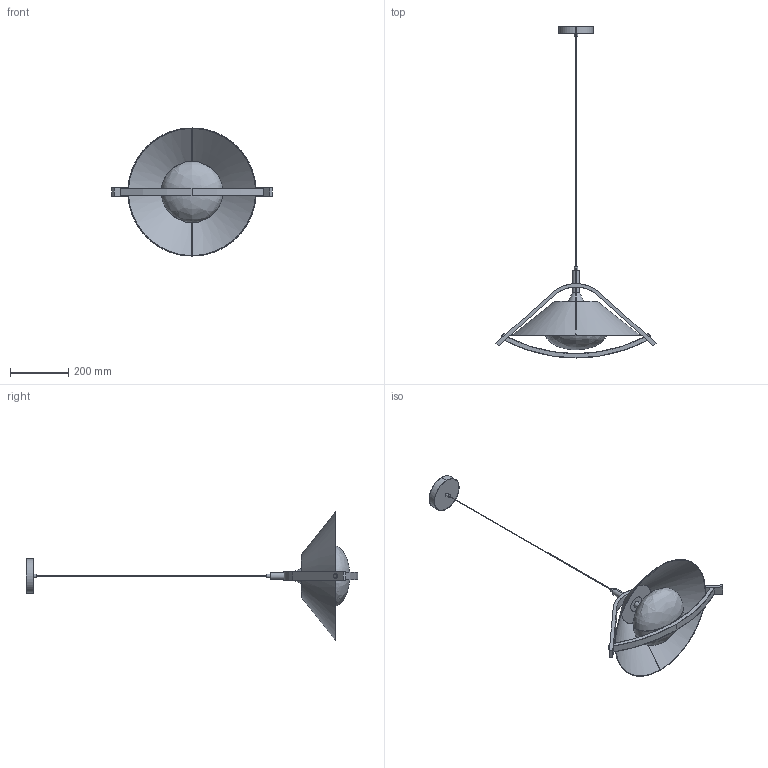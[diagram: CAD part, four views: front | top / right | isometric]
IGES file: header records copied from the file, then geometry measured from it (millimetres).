
Start section: SolidWorks IGES file using analytic representation for surfaces
Global section: file name: F:\燠隴矨\3D\2026-1\Kyomi Arch Pendant Lamp.IGS,15; native system: HSolidWorks 2022; preprocessor: SolidWorks 2022; author: MyPC; date: 260120.145508; units: millimetre
Bounding box: 548.57 x 1136.59 x 438.52 mm (x, y, z)
Surface area: 766078.1 mm2 (no closed solid volume)
Topology: 0 solids, 0 shells, 155 faces, 2198 edges, 2187 vertices
Faces by surface type: revolution 80, bspline 75
